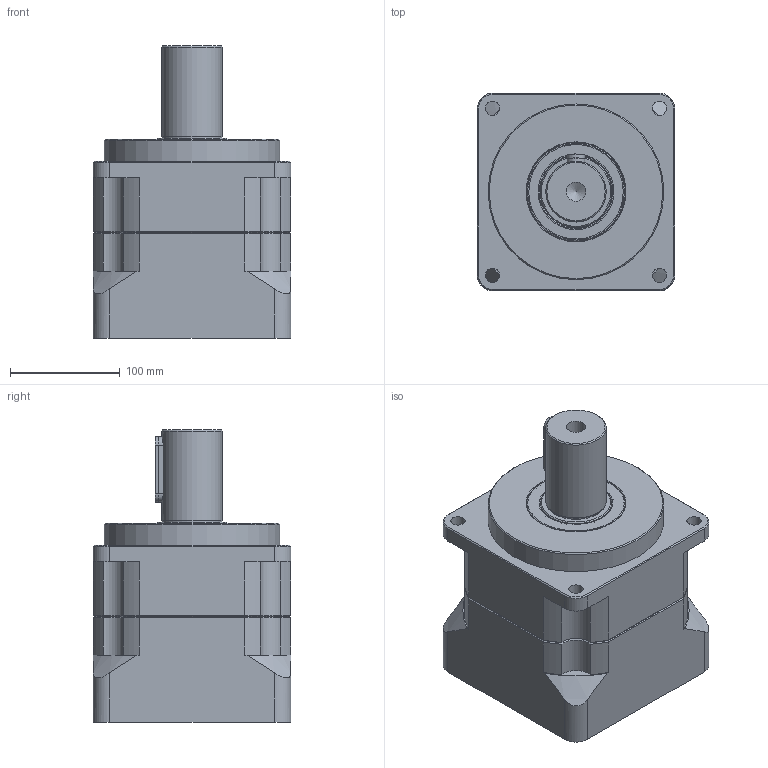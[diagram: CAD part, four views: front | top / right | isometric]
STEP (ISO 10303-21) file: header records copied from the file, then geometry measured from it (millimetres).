
FILE_DESCRIPTION (( 'STEP AP203' ), '1' );
FILE_NAME ('JHP180.STEP', '2015-02-26T07:21:17', ( 'wang' ), ( '' ), 'SwSTEP 2.0', 'SolidWorks 2013', '' );
FILE_SCHEMA (( 'CONFIG_CONTROL_DESIGN' ));
Length unit declared in the file: millimetre
Products named in the file (1): JHP180
Bounding box: 180 x 180 x 266 mm (x, y, z)
Volume: 3400763.4 mm3; surface area: 428371.5 mm2
Topology: 6 solids, 6 shells, 258 faces, 586 edges, 367 vertices
Faces by surface type: cylinder 110, plane 95, cone 43, torus 10
Full cylindrical faces by diameter (mm): 12 x4, 13 x8, 16 x1, 17.5 x1, 19 x4, 54.6 x1, 55 x1, 63 x1, 65 x2, 67 x1, 70 x1, 88 x1, 90 x3, 95 x2, 100 x1, 110 x2, 120 x1, 135.58 x1, 145 x2, 147 x1, 150 x3, 155.2 x1, 160 x1
Entity records: 7730 total; most frequent: CARTESIAN_POINT 2099, DIRECTION 1185, ORIENTED_EDGE 1030, EDGE_CURVE 515, AXIS2_PLACEMENT_3D 494, EDGE_LOOP 377, VERTEX_POINT 358, FACE_OUTER_BOUND 308
